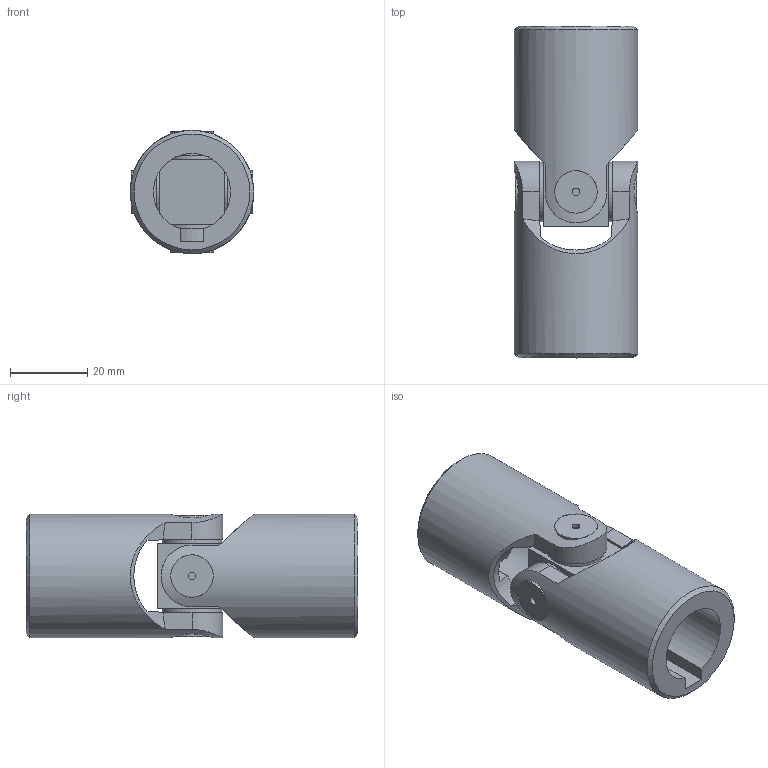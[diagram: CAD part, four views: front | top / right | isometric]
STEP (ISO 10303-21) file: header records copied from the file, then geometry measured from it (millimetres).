
FILE_DESCRIPTION(/* description */ (''),/* implementation_level */ '2;1');
FILE_NAME(/* name */ '\\SRV2016\Societa\Stefano\Disegni 3D\Dis. Clienti\0000Catalogo 3D\01Singoli G-GB\Ø32_3GB-2C_SGBS202C.stp',/* time_stamp */ '2021-11-10T15:14:47+01:00',/* author */ ('acquisti'),/* organization */ (''),/* preprocessor_version */ 'ST-DEVELOPER v15.6',/* originating_system */ 'Autodesk Inventor 2015',/* authorisation */ '');
FILE_SCHEMA (('AUTOMOTIVE_DESIGN { 1 0 10303 214 3 1 1 }'));
Length unit declared in the file: millimetre
Products named in the file (3): 1G SFE; 3GB MOC; Assieme7
Assembly tree (3 placements, depth 2):
  Assieme7
    1G SFE
    3GB MOC  x2
Bounding box: 32 x 86 x 32 mm (x, y, z)
Volume: 41309.4 mm3; surface area: 17032.2 mm2
Topology: 3 solids, 3 shells, 92 faces, 222 edges, 144 vertices
Faces by surface type: plane 46, cylinder 32, cone 10, torus 4
Full cylindrical faces by diameter (mm): 2 x4, 15.5 x4, 32 x2
Entity records: 1707 total; most frequent: CARTESIAN_POINT 508, DIRECTION 237, ORIENTED_EDGE 224, EDGE_CURVE 112, AXIS2_PLACEMENT_3D 100, VERTEX_POINT 78, EDGE_LOOP 70, FACE_OUTER_BOUND 53
